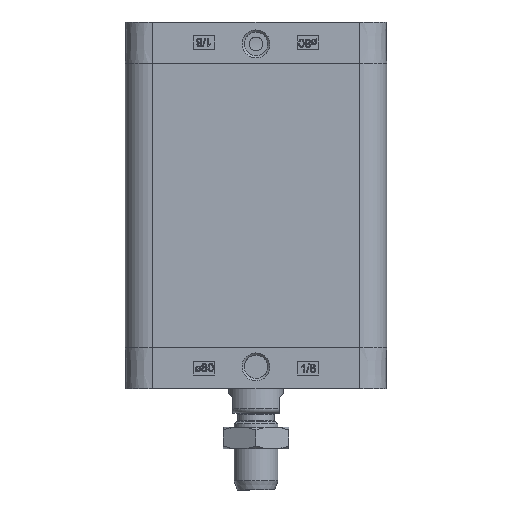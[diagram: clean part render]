
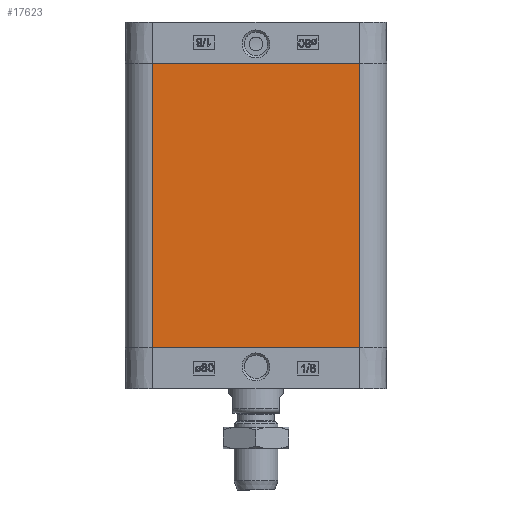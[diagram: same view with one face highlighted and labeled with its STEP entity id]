
A CAD part, left-side view. The second image highlights one B-rep face of the part: STEP entity #17623.
In plain terms, the highlighted planar face has unit normal (-1, 0, 0).
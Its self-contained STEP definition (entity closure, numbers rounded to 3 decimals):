
#1033=PLANE('',#18637);
#1951=LINE('',#27266,#3025);
#1952=LINE('',#27268,#3026);
#1953=LINE('',#27270,#3027);
#1954=LINE('',#27272,#3028);
#3025=VECTOR('',#21465,1000.);
#3026=VECTOR('',#21468,1000.);
#3027=VECTOR('',#21469,1000.);
#3028=VECTOR('',#21470,1000.);
#6176=ORIENTED_EDGE('',*,*,#8448,.T.);
#6177=ORIENTED_EDGE('',*,*,#8447,.F.);
#6178=ORIENTED_EDGE('',*,*,#8449,.F.);
#6179=ORIENTED_EDGE('',*,*,#8450,.T.);
#8447=EDGE_CURVE('',#9870,#9867,#1951,.T.);
#8448=EDGE_CURVE('',#9871,#9867,#1952,.T.);
#8449=EDGE_CURVE('',#9872,#9870,#1953,.T.);
#8450=EDGE_CURVE('',#9872,#9871,#1954,.T.);
#9867=VERTEX_POINT('',#27260);
#9870=VERTEX_POINT('',#27265);
#9871=VERTEX_POINT('',#27269);
#9872=VERTEX_POINT('',#27271);
#11348=EDGE_LOOP('',(#6176,#6177,#6178,#6179));
#12296=FACE_BOUND('',#11348,.T.);
#17623=ADVANCED_FACE('',(#12296),#1033,.T.);
#18637=AXIS2_PLACEMENT_3D('',#27267,#21466,#21467);
#21465=DIRECTION('',(0.,0.,1.));
#21466=DIRECTION('',(-1.,0.,0.));
#21467=DIRECTION('',(0.,0.,1.));
#21468=DIRECTION('',(0.,1.,0.));
#21469=DIRECTION('',(0.,1.,0.));
#21470=DIRECTION('',(0.,0.,1.));
#27260=CARTESIAN_POINT('',(-47.75,37.75,29.));
#27265=CARTESIAN_POINT('',(-47.75,37.75,-75.));
#27266=CARTESIAN_POINT('',(-47.75,37.75,0.));
#27267=CARTESIAN_POINT('',(-47.75,-37.75,0.));
#27268=CARTESIAN_POINT('',(-47.75,-37.75,29.));
#27269=CARTESIAN_POINT('',(-47.75,-37.75,29.));
#27270=CARTESIAN_POINT('',(-47.75,-37.75,-75.));
#27271=CARTESIAN_POINT('',(-47.75,-37.75,-75.));
#27272=CARTESIAN_POINT('',(-47.75,-37.75,0.));
